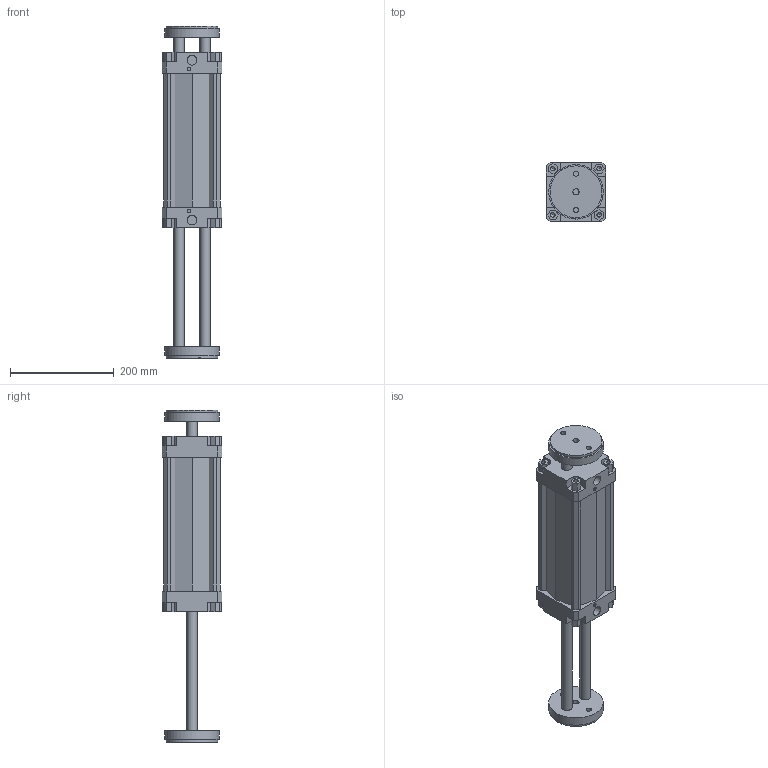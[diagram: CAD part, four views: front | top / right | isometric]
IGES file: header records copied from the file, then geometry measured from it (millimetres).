
Global section: file name: 132#_100_0200_06; native system: Autodesk Inventor 2014; preprocessor: unknown; author: A. Manieri; date: 20161006.163719; units: millimetre
Bounding box: 115 x 115 x 640 mm (x, y, z)
Volume: 2715564.1 mm3; surface area: 454315.3 mm2
Topology: 2 solids, 2 shells, 190 faces, 518 edges, 354 vertices
Faces by surface type: bspline 190
